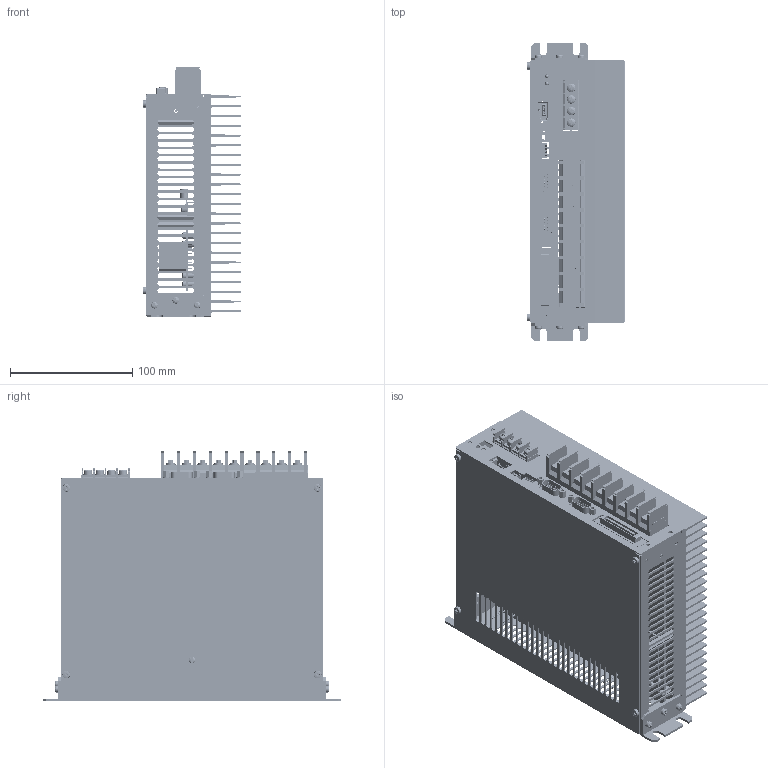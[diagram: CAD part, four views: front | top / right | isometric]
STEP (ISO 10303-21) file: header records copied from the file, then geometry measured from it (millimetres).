
FILE_DESCRIPTION(('HOOPS Exchange Step'),'2;1');
FILE_NAME('/tmp/4f327a01bcc0f1c6562c4219a489537020230329-1-1hjekz3.X_T.step','2023-03-29T07:13:37+00:00',('root'),('Unknown organisation'),'HOOPS Exchange 2021.0','HOOPS Exchange','Unknown authorisation');
FILE_SCHEMA( ('AUTOMOTIVE_DESIGN { 1 0 10303 214 1 1 1 1 }') );
Length unit declared in the file: millimetre
Products named in the file (1): 4f327a01bcc0f1c6562c4219a489537020230329-1-1hjekz3
Bounding box: 80.4 x 245 x 205.51 mm (x, y, z)
Volume: 706758.3 mm3; surface area: 715486.3 mm2
Topology: 506 solids, 976 shells, 5797 faces, 19772 edges, 15565 vertices
Faces by surface type: plane 4204, cylinder 1279, bspline 200, extrusion 78, sphere 20, cone 16
Full cylindrical faces by diameter (mm): 0.5 x36, 0.8 x81, 0.9 x1, 1 x18, 1.2 x19, 1.4 x4, 1.7 x2, 2 x22, 2.2 x27, 2.5 x2, 2.8 x8, 3 x112, 3.1 x6, 3.2 x4, 3.5 x36, 3.8 x4, 4 x65, 4.3 x2, 5 x5, 5.5 x39, 6 x4, 6.5 x2, 7 x31, 8 x25, 12.652 x2, 19.052 x4, 22.752 x2
Entity records: 232304 total; most frequent: CARTESIAN_POINT 59016, ORIENTED_EDGE 33106, DIRECTION 33088, EDGE_CURVE 19649, VERTEX_POINT 15439, VECTOR 14484, LINE 14406, AXIS2_PLACEMENT_3D 9302
